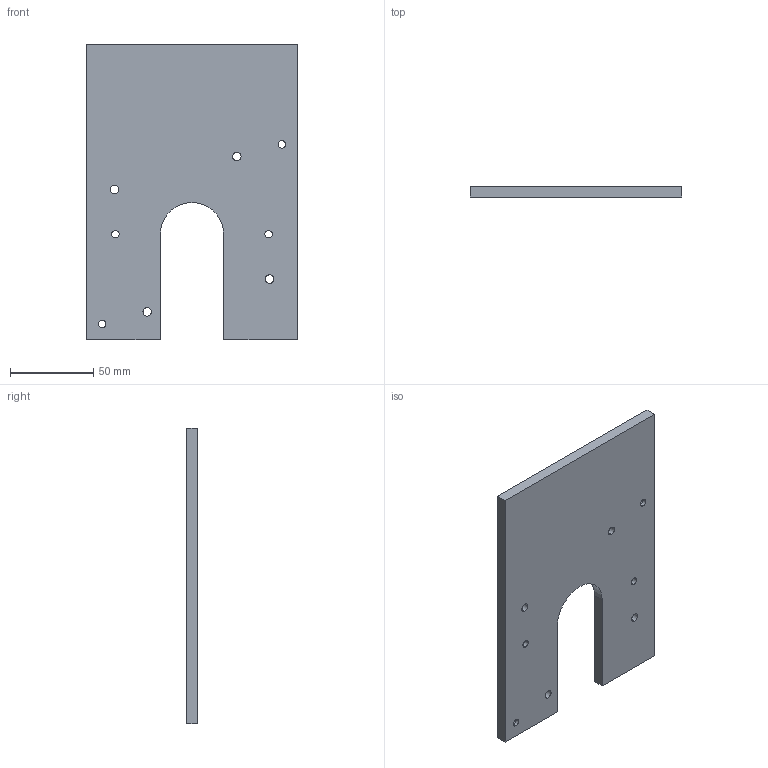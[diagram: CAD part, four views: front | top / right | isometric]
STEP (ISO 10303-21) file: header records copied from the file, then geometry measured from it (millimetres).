
FILE_DESCRIPTION (( 'STEP AP214' ), '1' );
FILE_NAME ('Connecting mount.STEP', '2024-01-31T17:45:41', ( '' ), ( '' ), 'SwSTEP 2.0', 'SolidWorks 2023', '' );
FILE_SCHEMA (( 'AUTOMOTIVE_DESIGN' ));
Length unit declared in the file: inch
Products named in the file (1): Connecting mount
Bounding box: 127 x 6.35 x 177.8 mm (x, y, z)
Volume: 122905.6 mm3; surface area: 44647.6 mm2
Topology: 1 solids, 1 shells, 39 faces, 99 edges, 66 vertices
Faces by surface type: cylinder 26, plane 13
Entity records: 1264 total; most frequent: DIRECTION 231, CARTESIAN_POINT 205, ORIENTED_EDGE 198, EDGE_CURVE 99, AXIS2_PLACEMENT_3D 92, VERTEX_POINT 66, EDGE_LOOP 59, CIRCLE 52
